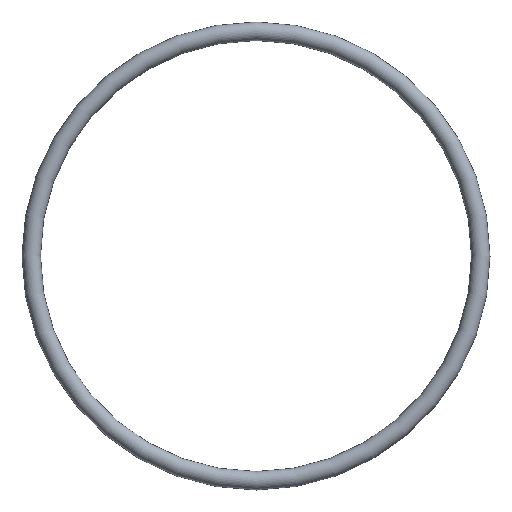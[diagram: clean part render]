
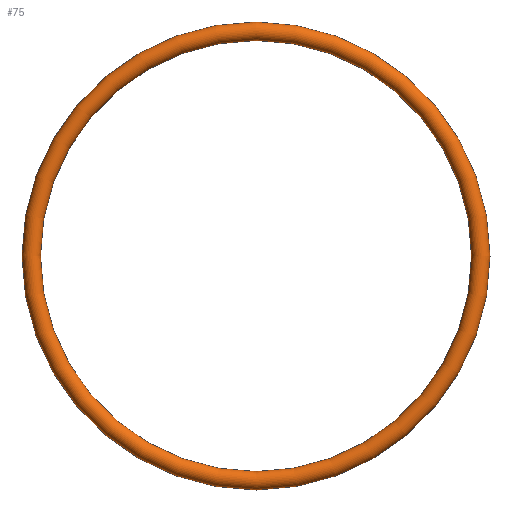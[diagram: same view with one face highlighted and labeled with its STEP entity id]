
A CAD part, front view. The second image highlights one B-rep face of the part: STEP entity #75.
In plain terms, the highlighted toroidal (fillet/blend) face has major radius 18.25 mm and minor radius 0.75 mm.
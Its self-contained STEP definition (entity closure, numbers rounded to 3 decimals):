
#75 = ADVANCED_FACE( '', ( #77 ), #78, .T. );
#77 = FACE_BOUND( '', #79, .T. );
#78 = TOROIDAL_SURFACE( '', #80, 18.25, 0.75 );
#79 = VERTEX_LOOP( '', #81 );
#80 = AXIS2_PLACEMENT_3D( '', #82, #83, #84 );
#81 = VERTEX_POINT( '', #85 );
#82 = CARTESIAN_POINT( '', ( 0., 0., 0. ) );
#83 = DIRECTION( '', ( 0., -1., 0. ) );
#84 = DIRECTION( '', ( 0., 0., -1. ) );
#85 = CARTESIAN_POINT( '', ( 0., 0., -19. ) );
